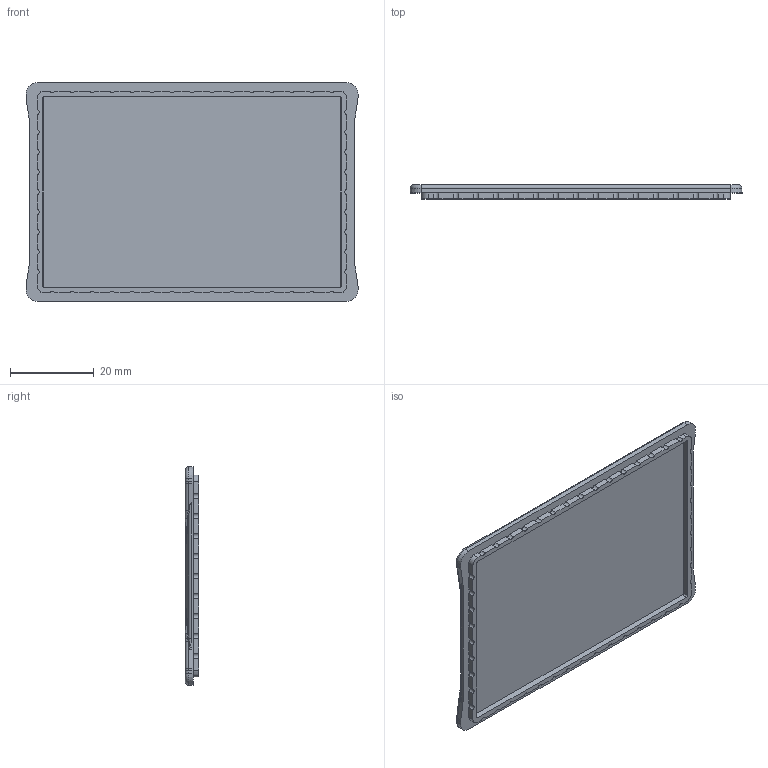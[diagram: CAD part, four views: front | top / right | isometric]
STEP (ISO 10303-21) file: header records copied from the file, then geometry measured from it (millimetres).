
FILE_DESCRIPTION (( 'STEP AP214' ), '1' );
FILE_NAME ('BX-23C.STEP', '2010-07-15T12:25:23', ( '' ), ( '' ), 'SwSTEP 2.0', 'SolidWorks 2010', '' );
FILE_SCHEMA (( 'AUTOMOTIVE_DESIGN' ));
Length unit declared in the file: inch
Products named in the file (1): BX-23C
Bounding box: 79.16 x 3.29 x 52.07 mm (x, y, z)
Volume: 8034.4 mm3; surface area: 9139.8 mm2
Topology: 1 solids, 1 shells, 209 faces, 573 edges, 362 vertices
Faces by surface type: cylinder 93, plane 74, bspline 30, cone 8, torus 4
Entity records: 7056 total; most frequent: CARTESIAN_POINT 1842, ORIENTED_EDGE 1134, DIRECTION 1067, EDGE_CURVE 567, AXIS2_PLACEMENT_3D 380, VERTEX_POINT 362, VECTOR 307, LINE 307
